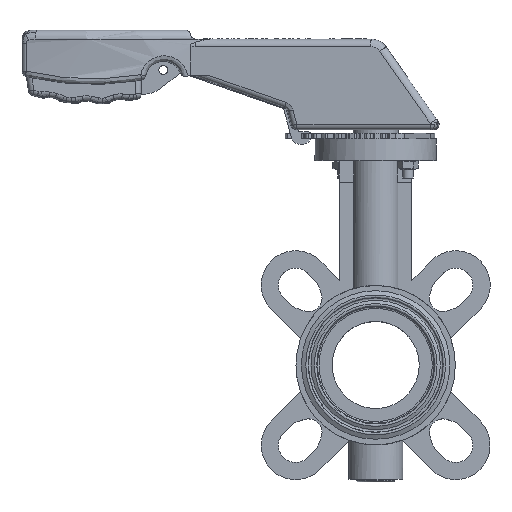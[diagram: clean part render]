
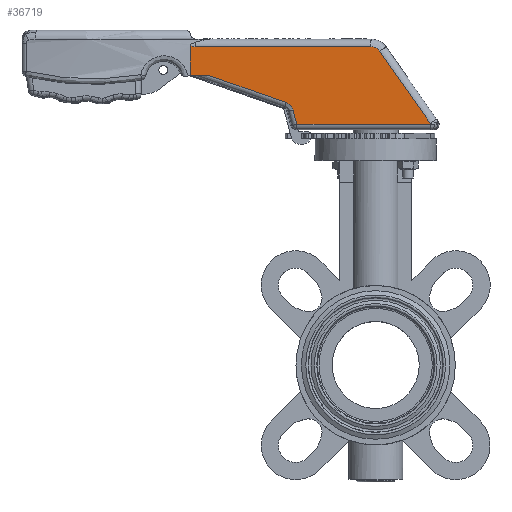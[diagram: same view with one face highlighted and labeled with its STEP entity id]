
A CAD part, top view. The second image highlights one B-rep face of the part: STEP entity #36719.
In plain terms, the highlighted planar face has unit normal (-0.048, 0, 0.999).
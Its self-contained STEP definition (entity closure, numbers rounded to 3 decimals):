
#34955=CARTESIAN_POINT('',(-92.079,159.9,15.484));
#34956=VERTEX_POINT('',#34955);
#34964=CARTESIAN_POINT('',(-102.247,159.9,15.));
#34965=VERTEX_POINT('',#34964);
#34966=CARTESIAN_POINT('',(-102.247,159.9,15.));
#34967=DIRECTION('',(0.999,0.0,0.048));
#34968=VECTOR('',#34967,10.179);
#34969=LINE('',#34966,#34968);
#34970=EDGE_CURVE('',#34965,#34956,#34969,.T.);
#35370=CARTESIAN_POINT('',(-102.247,176.342,15.));
#35371=VERTEX_POINT('',#35370);
#35372=CARTESIAN_POINT('',(-102.247,176.342,15.));
#35373=DIRECTION('',(0.0,-1.0,0.0));
#35374=VECTOR('',#35373,16.442);
#35375=LINE('',#35372,#35374);
#35376=EDGE_CURVE('',#35371,#34965,#35375,.T.);
#36332=CARTESIAN_POINT('',(-43.485,132.9,17.798));
#36333=VERTEX_POINT('',#36332);
#36341=CARTESIAN_POINT('',(-45.594,140.743,17.698));
#36342=VERTEX_POINT('',#36341);
#36343=CARTESIAN_POINT('',(-43.485,132.9,17.798));
#36344=DIRECTION('',(-0.26,0.966,-0.012));
#36345=VECTOR('',#36344,8.122);
#36346=LINE('',#36343,#36345);
#36347=EDGE_CURVE('',#36333,#36342,#36346,.T.);
#36465=CARTESIAN_POINT('',(-49.4,144.846,17.517));
#36466=VERTEX_POINT('',#36465);
#36474=CARTESIAN_POINT('',(-49.4,144.846,17.517));
#36475=DIRECTION('',(-0.942,0.332,-0.045));
#36476=VECTOR('',#36475,45.302);
#36477=LINE('',#36474,#36476);
#36478=EDGE_CURVE('',#36466,#34956,#36477,.T.);
#36509=CARTESIAN_POINT('',(-51.409,139.19,17.421));
#36510=DIRECTION('',(-0.048,0.,0.999));
#36511=DIRECTION('',(0.999,0.,0.048));
#36512=AXIS2_PLACEMENT_3D('',#36509,#36510,#36511);
#36513=ELLIPSE('',#36512,6.027,6.);
#36514=EDGE_CURVE('',#36342,#36466,#36513,.T.);
#36659=CARTESIAN_POINT('',(-102.247,184.9,15.));
#36660=DIRECTION('',(-0.048,0.,0.999));
#36661=DIRECTION('',(0.0,1.0,0.0));
#36662=AXIS2_PLACEMENT_3D('',#36659,#36660,#36661);
#36663=PLANE('',#36662);
#36664=CARTESIAN_POINT('',(30.393,132.999,21.316));
#36665=VERTEX_POINT('',#36664);
#36666=CARTESIAN_POINT('',(30.393,132.9,21.316));
#36667=VERTEX_POINT('',#36666);
#36668=CARTESIAN_POINT('',(30.393,132.999,21.316));
#36669=DIRECTION('',(0.0,-1.0,0.0));
#36670=VECTOR('',#36669,0.099);
#36671=LINE('',#36668,#36670);
#36672=EDGE_CURVE('',#36665,#36667,#36671,.T.);
#36673=ORIENTED_EDGE('',*,*,#36672,.F.);
#36674=CARTESIAN_POINT('',(2.185,173.284,19.973));
#36675=VERTEX_POINT('',#36674);
#36676=CARTESIAN_POINT('',(2.185,173.284,19.973));
#36677=DIRECTION('',(0.573,-0.819,0.027));
#36678=VECTOR('',#36677,49.197);
#36679=LINE('',#36676,#36678);
#36680=EDGE_CURVE('',#36675,#36665,#36679,.T.);
#36681=ORIENTED_EDGE('',*,*,#36680,.F.);
#36682=CARTESIAN_POINT('',(-2.648,175.8,19.743));
#36683=VERTEX_POINT('',#36682);
#36684=CARTESIAN_POINT('',(-2.648,169.9,19.743));
#36685=DIRECTION('',(0.048,0.,-0.999));
#36686=DIRECTION('',(0.999,0.,0.048));
#36687=AXIS2_PLACEMENT_3D('',#36684,#36685,#36686);
#36688=ELLIPSE('',#36687,5.907,5.9);
#36689=EDGE_CURVE('',#36683,#36675,#36688,.T.);
#36690=ORIENTED_EDGE('',*,*,#36689,.F.);
#36691=CARTESIAN_POINT('',(-99.526,175.8,15.13));
#36692=VERTEX_POINT('',#36691);
#36693=CARTESIAN_POINT('',(-99.526,175.8,15.13));
#36694=DIRECTION('',(0.999,0.0,0.048));
#36695=VECTOR('',#36694,96.988);
#36696=LINE('',#36693,#36695);
#36697=EDGE_CURVE('',#36692,#36683,#36696,.T.);
#36698=ORIENTED_EDGE('',*,*,#36697,.F.);
#36699=CARTESIAN_POINT('',(-102.247,176.342,15.));
#36700=CARTESIAN_POINT('',(-101.391,175.987,15.041));
#36701=CARTESIAN_POINT('',(-100.451,175.8,15.086));
#36702=CARTESIAN_POINT('',(-99.526,175.8,15.13));
#36703=B_SPLINE_CURVE_WITH_KNOTS('',3,(#36699,#36700,#36701,#36702),.UNSPECIFIED.,.F.,.U.,(4,4),(0.714,0.991),.UNSPECIFIED.);
#36704=EDGE_CURVE('',#35371,#36692,#36703,.T.);
#36705=ORIENTED_EDGE('',*,*,#36704,.F.);
#36706=ORIENTED_EDGE('',*,*,#35376,.T.);
#36707=ORIENTED_EDGE('',*,*,#34970,.T.);
#36708=ORIENTED_EDGE('',*,*,#36478,.F.);
#36709=ORIENTED_EDGE('',*,*,#36514,.F.);
#36710=ORIENTED_EDGE('',*,*,#36347,.F.);
#36711=CARTESIAN_POINT('',(30.393,132.9,21.316));
#36712=DIRECTION('',(-0.999,0.0,-0.048));
#36713=VECTOR('',#36712,73.962);
#36714=LINE('',#36711,#36713);
#36715=EDGE_CURVE('',#36667,#36333,#36714,.T.);
#36716=ORIENTED_EDGE('',*,*,#36715,.F.);
#36717=EDGE_LOOP('',(#36673,#36681,#36690,#36698,#36705,#36706,#36707,#36708,#36709,#36710,#36716));
#36718=FACE_OUTER_BOUND('',#36717,.T.);
#36719=ADVANCED_FACE('',(#36718),#36663,.T.);
